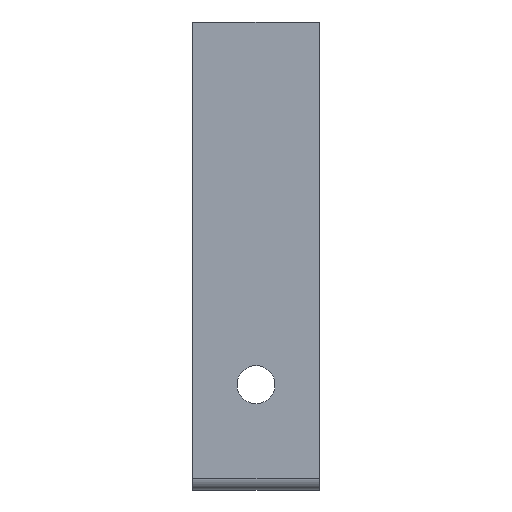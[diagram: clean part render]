
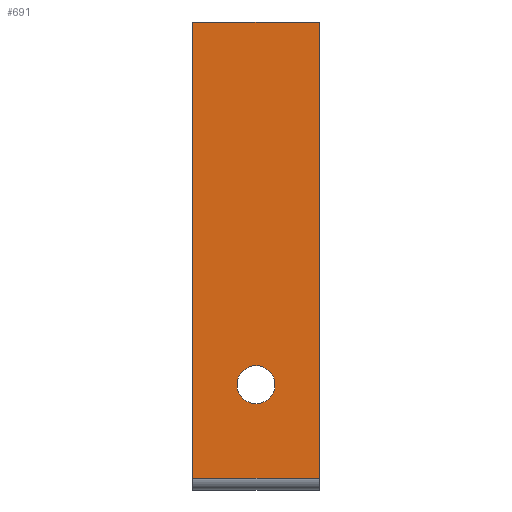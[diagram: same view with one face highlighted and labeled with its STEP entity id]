
A CAD part, front view. The second image highlights one B-rep face of the part: STEP entity #691.
In plain terms, the highlighted planar face has unit normal (0, -1, 0).
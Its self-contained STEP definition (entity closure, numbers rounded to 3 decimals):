
#4 = EDGE_CURVE ( 'NONE', #271, #1538, #734, .T. ) ;
#74 = CARTESIAN_POINT ( 'NONE',  ( 0., -2.5, 0. ) ) ;
#83 = DIRECTION ( 'NONE',  ( 0., 0., 1. ) ) ;
#93 = VECTOR ( 'NONE', #83, 1000. ) ;
#166 = DIRECTION ( 'NONE',  ( 1., 0., 0. ) ) ;
#176 = DIRECTION ( 'NONE',  ( 0., 0., -1. ) ) ;
#207 = CARTESIAN_POINT ( 'NONE',  ( 0., -2.5, -216.447 ) ) ;
#222 = AXIS2_PLACEMENT_3D ( 'NONE', #74, #1473, #500 ) ;
#223 = EDGE_CURVE ( 'NONE', #271, #377, #863, .T. ) ;
#262 = LINE ( 'NONE', #1568, #1799 ) ;
#271 = VERTEX_POINT ( 'NONE', #902 ) ;
#318 = VECTOR ( 'NONE', #1203, 1000. ) ;
#354 = EDGE_LOOP ( 'NONE', ( #922, #1449, #1043, #1087 ) ) ;
#377 = VERTEX_POINT ( 'NONE', #388 ) ;
#388 = CARTESIAN_POINT ( 'NONE',  ( 0., -2.5, 0. ) ) ;
#402 = CIRCLE ( 'NONE', #565, 9. ) ;
#500 = DIRECTION ( 'NONE',  ( 0., 0., -1. ) ) ;
#539 = EDGE_CURVE ( 'NONE', #586, #1538, #1238, .T. ) ;
#565 = AXIS2_PLACEMENT_3D ( 'NONE', #1272, #577, #1559 ) ;
#577 = DIRECTION ( 'NONE',  ( 0., -1., 0. ) ) ;
#586 = VERTEX_POINT ( 'NONE', #1452 ) ;
#691 = ADVANCED_FACE ( 'NONE', ( #1523, #1742 ), #753, .T. ) ;
#702 = CARTESIAN_POINT ( 'NONE',  ( 30., -2.5, -163. ) ) ;
#730 = DIRECTION ( 'NONE',  ( 0., -1., 0. ) ) ;
#734 = LINE ( 'NONE', #207, #318 ) ;
#740 = CARTESIAN_POINT ( 'NONE',  ( 60., -2.5, 0. ) ) ;
#751 = AXIS2_PLACEMENT_3D ( 'NONE', #1574, #730, #1717 ) ;
#753 = PLANE ( 'NONE',  #222 ) ;
#863 = LINE ( 'NONE', #1635, #93 ) ;
#885 = CARTESIAN_POINT ( 'NONE',  ( 60., -2.5, -216.447 ) ) ;
#902 = CARTESIAN_POINT ( 'NONE',  ( 0., -2.5, -216.447 ) ) ;
#922 = ORIENTED_EDGE ( 'NONE', *, *, #223, .F. ) ;
#1043 = ORIENTED_EDGE ( 'NONE', *, *, #539, .F. ) ;
#1087 = ORIENTED_EDGE ( 'NONE', *, *, #1474, .F. ) ;
#1114 = VERTEX_POINT ( 'NONE', #702 ) ;
#1131 = ORIENTED_EDGE ( 'NONE', *, *, #1590, .F. ) ;
#1186 = EDGE_LOOP ( 'NONE', ( #1577, #1131 ) ) ;
#1203 = DIRECTION ( 'NONE',  ( 1., 0., 0. ) ) ;
#1238 = LINE ( 'NONE', #740, #1729 ) ;
#1272 = CARTESIAN_POINT ( 'NONE',  ( 30., -2.5, -172. ) ) ;
#1406 = CIRCLE ( 'NONE', #751, 9. ) ;
#1416 = VERTEX_POINT ( 'NONE', #1589 ) ;
#1449 = ORIENTED_EDGE ( 'NONE', *, *, #4, .T. ) ;
#1452 = CARTESIAN_POINT ( 'NONE',  ( 60., -2.5, 0. ) ) ;
#1473 = DIRECTION ( 'NONE',  ( 0., -1., 0. ) ) ;
#1474 = EDGE_CURVE ( 'NONE', #377, #586, #262, .T. ) ;
#1523 = FACE_BOUND ( 'NONE', #1186, .T. ) ;
#1538 = VERTEX_POINT ( 'NONE', #885 ) ;
#1559 = DIRECTION ( 'NONE',  ( 0., 0., -1. ) ) ;
#1568 = CARTESIAN_POINT ( 'NONE',  ( 0., -2.5, 0. ) ) ;
#1574 = CARTESIAN_POINT ( 'NONE',  ( 30., -2.5, -172. ) ) ;
#1577 = ORIENTED_EDGE ( 'NONE', *, *, #1592, .F. ) ;
#1589 = CARTESIAN_POINT ( 'NONE',  ( 30., -2.5, -181. ) ) ;
#1590 = EDGE_CURVE ( 'NONE', #1416, #1114, #402, .T. ) ;
#1592 = EDGE_CURVE ( 'NONE', #1114, #1416, #1406, .T. ) ;
#1635 = CARTESIAN_POINT ( 'NONE',  ( 0., -2.5, 0. ) ) ;
#1717 = DIRECTION ( 'NONE',  ( 0., 0., -1. ) ) ;
#1729 = VECTOR ( 'NONE', #176, 1000. ) ;
#1742 = FACE_OUTER_BOUND ( 'NONE', #354, .T. ) ;
#1799 = VECTOR ( 'NONE', #166, 1000. ) ;
